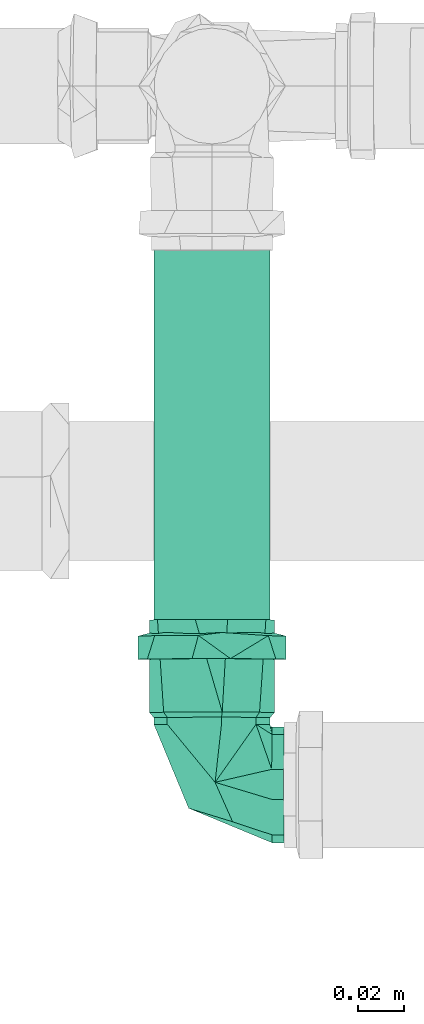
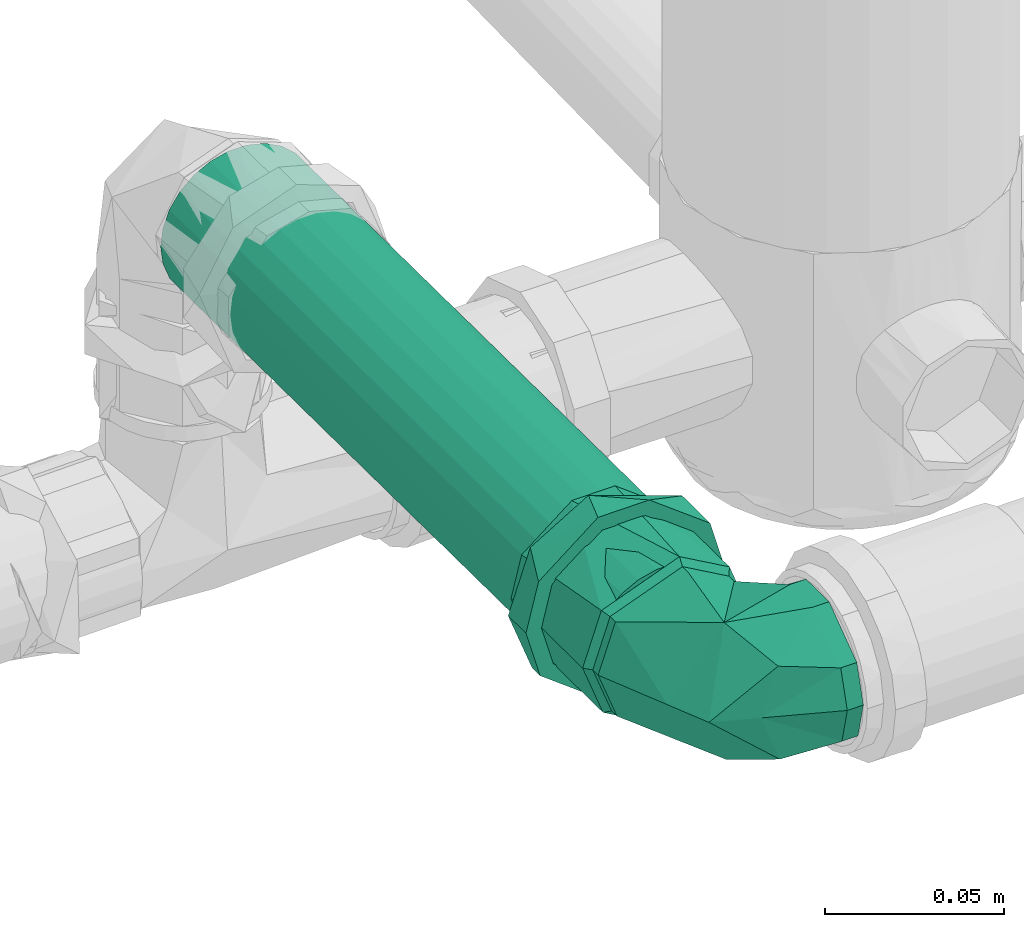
# One storey, part 96 of 589: 1 flow fitting, 1 flow segment.
"""IFC2X3 building model written with IfcOpenShell, lengths in millimetres."""

from ifc_helpers import new_model, entity, si_unit, converted_unit, derived_unit, direction, frame, frame_2d, origin, place, context, subcontext, project, spatial, circle, extrude, faceted_brep, source, transform, mapped, material, type_object, type_shapes, element, save


model = new_model("IFC2X3")

# Units and contexts
model_context = context("Model", 3, precision=0.01, world=origin(), true_north=direction((6.123031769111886e-17, 1.0)))
body_context = subcontext(model_context, "Body", "Model", "MODEL_VIEW")
ifc_project = project(units=[si_unit("LENGTHUNIT", "METRE", prefix="MILLI"), si_unit("AREAUNIT", "SQUARE_METRE"), si_unit("VOLUMEUNIT", "CUBIC_METRE"), converted_unit("PLANEANGLEUNIT", "DEGREE", entity("IfcRatioMeasure", 0.017453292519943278), si_unit("PLANEANGLEUNIT", "RADIAN"), dimensions=[0, 0, 0, 0, 0, 0, 0]), si_unit("MASSUNIT", "GRAM", prefix="KILO"), derived_unit("MASSDENSITYUNIT", [(si_unit("MASSUNIT", "GRAM", prefix="KILO"), 1), (si_unit("LENGTHUNIT", "METRE"), -3)]), derived_unit("IONCONCENTRATIONUNIT", [(si_unit("MASSUNIT", "GRAM", prefix="KILO"), 1), (si_unit("LENGTHUNIT", "METRE"), -3)]), derived_unit("MOMENTOFINERTIAUNIT", [(si_unit("LENGTHUNIT", "METRE"), 4)]), si_unit("TIMEUNIT", "SECOND"), si_unit("FREQUENCYUNIT", "HERTZ"), si_unit("THERMODYNAMICTEMPERATUREUNIT", "DEGREE_CELSIUS"), derived_unit("THERMALTRANSMITTANCEUNIT", [(si_unit("MASSUNIT", "GRAM", prefix="KILO"), 1), (si_unit("THERMODYNAMICTEMPERATUREUNIT", "KELVIN"), -1), (si_unit("TIMEUNIT", "SECOND"), -3)]), derived_unit("THERMALCONDUCTANCEUNIT", [(si_unit("MASSUNIT", "GRAM", prefix="KILO"), 1), (si_unit("THERMODYNAMICTEMPERATUREUNIT", "KELVIN"), -1), (si_unit("TIMEUNIT", "SECOND"), -3), (si_unit("LENGTHUNIT", "METRE"), 1)]), derived_unit("VOLUMETRICFLOWRATEUNIT", [(si_unit("LENGTHUNIT", "METRE"), 3), (si_unit("TIMEUNIT", "SECOND"), -1)]), derived_unit("MASSFLOWRATEUNIT", [(si_unit("MASSUNIT", "GRAM", prefix="KILO"), 1), (si_unit("TIMEUNIT", "SECOND"), -1)]), derived_unit("ROTATIONALFREQUENCYUNIT", [(si_unit("TIMEUNIT", "SECOND"), -1)]), si_unit("ELECTRICCURRENTUNIT", "AMPERE"), si_unit("ELECTRICVOLTAGEUNIT", "VOLT"), si_unit("POWERUNIT", "WATT"), si_unit("FORCEUNIT", "NEWTON", prefix="KILO"), si_unit("ILLUMINANCEUNIT", "LUX"), si_unit("LUMINOUSFLUXUNIT", "LUMEN"), si_unit("LUMINOUSINTENSITYUNIT", "CANDELA"), derived_unit("USERDEFINED", [(si_unit("MASSUNIT", "GRAM", prefix="KILO"), -1), (si_unit("LENGTHUNIT", "METRE"), -2), (si_unit("TIMEUNIT", "SECOND"), 3), (si_unit("LUMINOUSFLUXUNIT", "LUMEN"), 1)]), derived_unit("USERDEFINED", [(si_unit("MASSUNIT", "GRAM", prefix="KILO"), 1), (si_unit("TIMEUNIT", "SECOND"), -3), (si_unit("LENGTHUNIT", "METRE"), 3), (si_unit("ELECTRICCURRENTUNIT", "AMPERE"), -2)]), derived_unit("SOUNDPOWERUNIT", [(si_unit("MASSUNIT", "GRAM", prefix="KILO"), 1), (si_unit("TIMEUNIT", "SECOND"), -3), (si_unit("LENGTHUNIT", "METRE"), 2)]), derived_unit("SOUNDPRESSUREUNIT", [(si_unit("MASSUNIT", "GRAM", prefix="KILO"), 1), (si_unit("LENGTHUNIT", "METRE"), -1), (si_unit("TIMEUNIT", "SECOND"), -2)]), derived_unit("LINEARVELOCITYUNIT", [(si_unit("LENGTHUNIT", "METRE"), 1), (si_unit("TIMEUNIT", "SECOND"), -1)]), si_unit("PRESSUREUNIT", "PASCAL"), derived_unit("USERDEFINED", [(si_unit("MASSUNIT", "GRAM", prefix="KILO"), 1), (si_unit("LENGTHUNIT", "METRE"), -2), (si_unit("TIMEUNIT", "SECOND"), -2)]), derived_unit("LINEARFORCEUNIT", [(si_unit("MASSUNIT", "GRAM", prefix="KILO"), 1), (si_unit("TIMEUNIT", "SECOND"), -2)]), derived_unit("PLANARFORCEUNIT", [(si_unit("MASSUNIT", "GRAM", prefix="KILO"), 1), (si_unit("LENGTHUNIT", "METRE"), -1), (si_unit("TIMEUNIT", "SECOND"), -2)]), derived_unit("SPECIFICHEATCAPACITYUNIT", [(si_unit("THERMODYNAMICTEMPERATUREUNIT", "KELVIN"), -1), (si_unit("LENGTHUNIT", "METRE"), 2), (si_unit("TIMEUNIT", "SECOND"), -2)]), derived_unit("HEATINGVALUEUNIT", [(si_unit("LENGTHUNIT", "METRE"), 2), (si_unit("TIMEUNIT", "SECOND"), -2)]), derived_unit("VAPORPERMEABILITYUNIT", [(si_unit("LENGTHUNIT", "METRE"), -1), (si_unit("TIMEUNIT", "SECOND"), 1)]), derived_unit("DYNAMICVISCOSITYUNIT", [(si_unit("MASSUNIT", "GRAM", prefix="KILO"), 1), (si_unit("TIMEUNIT", "SECOND"), -1), (si_unit("LENGTHUNIT", "METRE"), -1)]), derived_unit("THERMALEXPANSIONCOEFFICIENTUNIT", [(si_unit("THERMODYNAMICTEMPERATUREUNIT", "KELVIN"), -1)]), derived_unit("MODULUSOFELASTICITYUNIT", [(si_unit("MASSUNIT", "GRAM", prefix="KILO"), 1), (si_unit("LENGTHUNIT", "METRE"), -1), (si_unit("TIMEUNIT", "SECOND"), -2)]), derived_unit("ISOTHERMALMOISTURECAPACITYUNIT", [(si_unit("LENGTHUNIT", "METRE"), 3), (si_unit("MASSUNIT", "GRAM", prefix="KILO"), -1)]), derived_unit("MOISTUREDIFFUSIVITYUNIT", [(si_unit("TIMEUNIT", "SECOND"), -1), (si_unit("LENGTHUNIT", "METRE"), 2)])], contexts=[model_context])

# Site, building, storey
site_placement = place(None, origin())
site = spatial("IfcSite", under=ifc_project, at=site_placement, Name="Default", CompositionType="ELEMENT")
building_placement = place(site_placement, origin())
building = spatial("IfcBuilding", under=site, at=building_placement, CompositionType="ELEMENT")
storey_placement = place(building_placement, frame((0.0, 0.0, 100.0)))
storey = spatial("IfcBuildingStorey", under=building, at=storey_placement, Name="TÉRREO", CompositionType="ELEMENT", Elevation=100.0)

# Flow segment
pipe_segment_type = type_object("IfcPipeSegmentType", Name="Tipos de tubos:PVC Esgoto Série Normal", PredefinedType="NOTDEFINED")
flow_segment_placement = place(storey_placement, origin())
element("IfcFlowSegment", 1, at=flow_segment_placement, inside=storey, type_object=pipe_segment_type, Name="Tipos de tubos:PVC Esgoto Série Normal", ObjectType="Tipos de tubos:PVC Esgoto Série Normal", context=body_context, shape_type="SweptSolid", body=[
    extrude(circle(Radius=25.0, at=frame_2d((0.0, -1.9795174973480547e-14), x_axis=(1.0, 0.0))), frame((-3099.894944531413, -624.5892313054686, -72.29645995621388), z_axis=(0.0, 0.9999500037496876, -0.00999950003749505), x_axis=(-1.0, 0.0, 0.0)), (0.0, 0.0, 1.0), 239.42622177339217),
])

# Flow fitting
ifc_material = material(Name="PVC Série Normal")
pipe_fitting_type = type_object("IfcPipeFittingType", Name="PVC Esgoto_Joelho 45_90_Rodrigo MEP:a. Série Normal", PredefinedType="NOTDEFINED", material=ifc_material)
shared_shape = source(origin(), body_context, "Body", "Brep", [
    faceted_brep([(-6.4678766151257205, 25.998047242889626, -24.1481456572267), (6.473075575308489, 25.99675327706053, -24.148145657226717), (21.653234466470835, 25.995235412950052, -12.500000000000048), (25.00259935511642, 25.99490050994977, 0.0), (21.65323446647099, 25.995235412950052, 12.499999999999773), (6.4730755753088, 25.99675327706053, 24.14814565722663), (-6.467876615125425, 25.998047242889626, 24.14814565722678), (-21.648035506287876, 25.999565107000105, 12.500000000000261), (-24.99740039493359, 25.99990001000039, 0.0), (-21.64803550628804, 25.999565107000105, -12.499999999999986), (21.65375441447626, 31.195235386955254, 12.499999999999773), (25.003119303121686, 31.19490048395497, 0.0), (21.6537544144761, 31.195235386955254, -12.500000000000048), (6.473595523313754, 31.196753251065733, -24.148145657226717), (-6.467356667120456, 31.198047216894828, -24.1481456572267), (-21.64751555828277, 31.199565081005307, -12.499999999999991), (-24.99688044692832, 31.19989998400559, 0.0), (-21.64751555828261, 31.199565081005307, 12.500000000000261), (-6.4673566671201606, 31.198047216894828, 24.14814565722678), (6.473595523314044, 31.196753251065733, 24.148145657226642)], [[[0, 1, 2, 3, 4, 5, 6, 7, 8, 9]], [[10, 11, 12, 13, 14, 15, 16, 17, 18, 19]], [[3, 11, 10, 4]], [[4, 10, 19, 5]], [[19, 18, 6, 5]], [[6, 18, 17, 7]], [[7, 17, 16, 8]], [[8, 16, 15, 9]], [[9, 15, 14, 0]], [[14, 13, 1, 0]], [[1, 13, 12, 2]], [[2, 12, 11, 3]]]),
    faceted_brep([(-71.19740038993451, -6.988114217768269, -26.07999730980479), (-71.19740038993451, -6.47047612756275, -24.14814565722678), (-71.19740038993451, 6.4704761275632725, -24.148145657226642), (-71.19740038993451, -23.382685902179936, -13.499999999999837), (-71.19740038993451, 6.988114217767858, -26.0799973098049), (-71.19740038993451, -21.650635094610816, -12.500000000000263), (-71.19740038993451, -25.0, 0.0), (-71.19740038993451, -27.0, 0.0), (-71.19740038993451, -21.650635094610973, 12.499999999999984), (-71.19740038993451, -23.382685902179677, 13.500000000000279), (-71.19740038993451, -6.470476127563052, 24.1481456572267), (-71.19740038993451, -6.98811421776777, 26.079997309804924), (-71.19740038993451, 6.470476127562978, 24.14814565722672), (-71.19740038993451, 6.988114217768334, 26.07999730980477), (-71.19740038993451, 21.650635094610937, 12.500000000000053), (-71.19740038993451, 23.38268590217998, 13.499999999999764), (-71.19740038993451, 27.0, 0.0), (-71.19740038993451, 25.0, 0.0), (-71.19740038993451, 23.382685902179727, -13.500000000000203), (-71.19740038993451, 21.6506350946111, -12.499999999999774), (-31.197400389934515, 21.650635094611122, -12.499999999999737), (-31.197400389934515, 25.0, 0.0), (-31.197400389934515, 6.4704761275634, -24.148145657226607), (-31.197400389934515, -6.470476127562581, -24.148145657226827), (-31.197400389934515, -21.650635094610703, -12.500000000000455), (-31.197400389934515, -25.0, 0.0), (-31.197400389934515, -21.65063509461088, 12.500000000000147), (-31.197400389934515, -6.470476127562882, 24.14814565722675), (-31.197400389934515, 6.470476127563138, 24.148145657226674), (-31.197400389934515, 21.650635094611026, 12.499999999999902), (-31.197400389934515, 27.0, 0.0), (-31.19740038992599, 20.682232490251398, 17.35641838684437), (-31.197400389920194, 4.685536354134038, 26.59033187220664), (-31.19740038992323, -20.686585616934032, 17.35122979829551), (-31.197400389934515, -27.0, 0.0), (-31.197400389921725, -8.000524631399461, 21.970780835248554), (-31.19740038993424, -20.686585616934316, -17.35122979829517), (-31.197400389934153, -4.6922062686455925, -26.589155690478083), (-31.197400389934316, 20.682232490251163, -17.356418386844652), (-31.197400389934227, 7.995013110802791, -21.97278703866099), (-28.997400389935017, -4.338459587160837, -24.62067765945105), (-28.9974003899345, 25.0, 0.0), (-28.99740038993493, 19.154245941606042, -16.065953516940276), (-28.997400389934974, 7.407893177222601, -20.34331558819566), (-28.997400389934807, -19.15021526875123, -16.070757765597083), (-28.9974003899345, -25.0, 0.0), (-28.997400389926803, -19.150215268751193, 16.07075776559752), (-28.997400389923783, -7.402789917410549, 20.34517318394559), (-28.9974003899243, 19.15424594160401, 16.065953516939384), (-28.997400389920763, 4.34463543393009, 24.619588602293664), (-25.997400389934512, 25.0, 0.0), (-25.997400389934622, 19.151286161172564, 16.069481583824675), (-25.997400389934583, 4.341396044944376, 24.62016003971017), (-25.997400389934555, -7.404832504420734, 20.344954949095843), (-25.997400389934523, -19.15106105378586, 16.069749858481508), (-25.997400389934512, -25.0, 0.0), (-25.997400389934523, -19.15106105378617, -16.069749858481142), (-25.99740038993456, -4.341051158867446, -24.62022085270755), (-25.997400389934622, 19.15128616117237, -16.069481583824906), (-25.99740038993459, 7.405117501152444, -20.344851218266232), (21.653234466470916, 25.995235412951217, 12.499999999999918), (25.002599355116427, 25.99490050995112, 0.0), (21.653234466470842, 25.995235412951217, -12.500000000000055), (6.473075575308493, 25.996753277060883, -24.14814565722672), (-6.467876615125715, 25.998047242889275, -24.1481456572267), (-21.64803550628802, 25.999565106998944, -12.499999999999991), (-24.997400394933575, 25.999900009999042, 0.0), (-21.64803550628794, 25.999565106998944, 12.500000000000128), (-6.467876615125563, 25.998047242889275, 24.14814565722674), (6.473075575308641, 25.996753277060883, 24.148145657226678), (-0.8941491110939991, 1.5691884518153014, 23.312558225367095), (-3.4891844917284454, -15.67745088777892, 0.0), (10.063242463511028, -10.064248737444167, 0.0), (16.06770268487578, 9.069040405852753, 15.83627166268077), (-25.290328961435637, 25.29285786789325, 0.0), (15.67779934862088, 3.4876160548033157, 0.0), (16.06770213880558, 9.06904053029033, -15.836272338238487), (-0.9328517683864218, 1.4778109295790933, -23.29853780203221)], [[[0, 1, 2]], [[1, 0, 3]], [[2, 4, 0]], [[3, 5, 1]], [[3, 6, 5]], [[6, 3, 7]], [[8, 6, 7]], [[8, 7, 9]], [[9, 10, 8]], [[9, 11, 10]], [[10, 11, 12]], [[13, 12, 11]], [[13, 14, 12]], [[14, 13, 15]], [[16, 14, 15]], [[17, 14, 16]], [[18, 17, 16]], [[18, 19, 17]], [[19, 18, 4]], [[4, 2, 19]], [[20, 21, 17, 19]], [[22, 20, 19, 2]], [[2, 1, 23, 22]], [[24, 23, 1, 5]], [[25, 24, 5, 6]], [[26, 25, 6, 8]], [[27, 26, 8, 10]], [[10, 12, 28, 27]], [[29, 28, 12, 14]], [[21, 29, 14, 17]], [[16, 15, 30]], [[15, 31, 30]], [[31, 15, 13]], [[31, 13, 32]], [[33, 11, 9]], [[34, 9, 7]], [[11, 33, 35, 32]], [[33, 9, 34]], [[11, 32, 13]], [[7, 3, 34]], [[3, 36, 34]], [[36, 3, 0]], [[36, 0, 37]], [[38, 4, 18]], [[30, 18, 16]], [[4, 38, 39, 37]], [[38, 18, 30]], [[4, 37, 0]], [[28, 29, 21, 20, 22, 23, 24, 25, 26, 27]], [[39, 40, 37]], [[41, 42, 30]], [[30, 42, 38]], [[38, 43, 39]], [[44, 45, 36]], [[38, 42, 43]], [[36, 37, 44]], [[34, 36, 45]], [[40, 39, 43]], [[44, 37, 40]], [[45, 46, 33]], [[33, 34, 45]], [[46, 35, 33]], [[46, 47, 35]], [[47, 32, 35]], [[48, 41, 30]], [[48, 31, 49]], [[31, 48, 30]], [[32, 47, 49]], [[49, 31, 32]], [[41, 48, 50]], [[48, 51, 50]], [[51, 48, 49]], [[51, 49, 52]], [[52, 47, 53]], [[46, 54, 53]], [[46, 45, 54]], [[49, 47, 52]], [[54, 45, 55]], [[47, 46, 53]], [[45, 44, 56]], [[45, 56, 55]], [[56, 44, 57]], [[58, 59, 43]], [[44, 40, 57]], [[40, 59, 57]], [[58, 43, 42]], [[42, 50, 58]], [[50, 42, 41]], [[59, 40, 43]], [[60, 61, 62, 63, 64, 65, 66, 67, 68, 69]], [[52, 70, 51]], [[54, 71, 70]], [[70, 52, 53, 54]], [[72, 73, 70]], [[50, 67, 74]], [[51, 67, 50]], [[54, 55, 71]], [[72, 70, 71]], [[75, 61, 60]], [[69, 70, 73]], [[73, 75, 60]], [[74, 67, 66]], [[73, 60, 69]], [[67, 51, 68]], [[70, 68, 51]], [[73, 72, 75]], [[69, 68, 70]], [[72, 76, 75]], [[71, 55, 56]], [[77, 58, 64]], [[77, 57, 59, 58]], [[77, 71, 56]], [[56, 57, 77]], [[77, 63, 76]], [[58, 50, 65]], [[74, 66, 65]], [[71, 77, 72]], [[65, 64, 58]], [[62, 75, 76]], [[62, 61, 75]], [[72, 77, 76]], [[76, 63, 62]], [[64, 63, 77]], [[65, 50, 74]]]),
    faceted_brep([(-54.19740038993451, 6.9881142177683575, -26.07999730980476), (-54.19740038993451, -6.988114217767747, -26.079997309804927), (-54.19740038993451, -8.282209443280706, -30.909626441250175), (-54.19740038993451, 8.28220944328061, -30.9096264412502), (-54.19740038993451, 23.38268590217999, -13.499999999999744), (-54.19740038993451, -27.712812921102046, -16.0), (-54.19740038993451, -23.38268590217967, -13.500000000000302), (-54.19740038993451, -27.0, 0.0), (-54.19740038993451, -32.0, 0.0), (-54.19740038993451, -23.382685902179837, 13.500000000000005), (-54.19740038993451, -27.712812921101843, 16.0), (-54.19740038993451, -6.988114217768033, 26.07999730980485), (-54.19740038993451, -8.28220944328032, 30.909626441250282), (-54.19740038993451, 6.988114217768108, 26.07999730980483), (-54.19740038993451, 8.282209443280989, 30.909626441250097), (-54.19740038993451, 23.382685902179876, 13.499999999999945), (-54.19740038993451, 27.712812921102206, 16.0), (-54.19740038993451, 32.0, 0.0), (-54.19740038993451, 27.0, 0.0), (-54.19740038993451, 27.712812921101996, -16.0), (-64.19740038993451, 27.0, 0.0), (-65.49740038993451, 27.0, 0.0), (-64.19740038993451, 25.191342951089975, -6.750000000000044), (-64.19740038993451, 23.38268590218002, -13.499999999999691), (-64.19740038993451, 19.284042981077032, -16.644999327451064), (-64.19740038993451, 15.185400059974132, -19.789998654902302), (-64.19740038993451, 11.086757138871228, -22.934997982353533), (-64.19740038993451, 6.988114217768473, -26.07999730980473), (-64.19740038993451, 0.0, -26.079997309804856), (-64.19740038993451, -6.988114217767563, -26.079997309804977), (-64.19740038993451, -11.086757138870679, -22.934997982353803), (-64.19740038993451, -15.185400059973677, -19.789998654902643), (-64.1974003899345, -19.284042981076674, -16.644999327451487), (-64.19740038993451, -23.382685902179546, -13.50000000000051), (-64.19740038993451, -25.191342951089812, -6.750000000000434), (-65.49740038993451, -27.0, 0.0), (-64.19740038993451, -27.0, 0.0), (-64.19740038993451, -25.19134295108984, 6.750000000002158), (-64.19740038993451, -23.382685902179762, 13.500000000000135), (-64.19740038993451, -19.284042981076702, 16.64499932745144), (-64.19740038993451, -15.185400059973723, 19.7899986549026), (-64.19740038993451, -11.086757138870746, 22.934997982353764), (-64.19740038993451, -6.988114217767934, 26.079997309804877), (-64.1974003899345, 0.0, 26.079997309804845), (-64.19740038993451, 6.988114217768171, 26.079997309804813), (-64.19740038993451, 11.086757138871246, 22.93499798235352), (-64.19740038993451, 15.185400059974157, 19.789998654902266), (-64.19740038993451, 19.284042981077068, 16.644999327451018), (-64.19740038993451, 23.382685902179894, 13.499999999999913), (-64.19740038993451, 25.19134295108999, 6.74999999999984), (-64.19740038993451, 32.0, 0.0), (-64.1974003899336, 24.512275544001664, 20.570569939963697), (-64.1974003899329, -5.561133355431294, 31.51307341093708), (-64.1974003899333, -24.51743480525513, 20.56442050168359), (-64.19740038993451, -32.0, 0.0), (-64.19740038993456, -24.51743480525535, -20.564420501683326), (-64.19740038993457, 5.553228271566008, -31.514467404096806), (-64.19740038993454, 24.512275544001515, -20.570569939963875), (-65.49740038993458, -23.84329280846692, -8.675614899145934), (-65.49740038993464, -20.686585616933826, -17.351229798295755), (-65.49740038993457, 23.841116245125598, -8.678209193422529), (-65.49740038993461, 20.6822324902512, -17.356418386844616), (-65.49740038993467, -12.689395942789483, -21.970192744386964), (-65.49740038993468, -4.692206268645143, -26.589155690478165), (-65.49740038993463, 14.338622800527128, -19.664602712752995), (-65.49740038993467, 1.6514034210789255, -24.280971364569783), (-65.49740038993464, 7.995013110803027, -21.97278703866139), (-65.49740038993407, 23.84111624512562, 8.678209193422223), (-65.49740038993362, 20.68223249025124, 17.35641838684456), (-65.49740038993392, -23.843292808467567, 8.675614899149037), (-65.49740038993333, -20.68658561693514, 17.351229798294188), (-65.49740038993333, 12.683884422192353, 21.973375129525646), (-65.49740038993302, 4.685536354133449, 26.590331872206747), (-65.49740038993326, -14.343555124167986, 19.66100531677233), (-65.4974003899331, -1.6574941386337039, 24.280556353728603), (-65.49740038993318, -8.000524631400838, 21.97078083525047)], [[[0, 1, 2]], [[2, 3, 0]], [[4, 0, 3]], [[5, 2, 1]], [[1, 6, 5]], [[6, 7, 5]], [[8, 5, 7]], [[8, 7, 9]], [[10, 8, 9]], [[9, 11, 10]], [[11, 12, 10]], [[13, 12, 11]], [[12, 13, 14]], [[13, 15, 14]], [[16, 14, 15]], [[16, 15, 17]], [[17, 15, 18]], [[18, 4, 19]], [[17, 18, 19]], [[3, 19, 4]], [[4, 18, 20, 21, 22, 23]], [[0, 4, 23, 24, 25, 26, 27]], [[0, 27, 28, 29, 1]], [[6, 1, 29, 30, 31, 32, 33]], [[7, 6, 33, 34, 35, 36]], [[9, 7, 36, 35, 37, 38]], [[11, 9, 38, 39, 40, 41, 42]], [[11, 42, 43, 44, 13]], [[15, 13, 44, 45, 46, 47, 48]], [[18, 15, 48, 49, 21, 20]], [[50, 51, 16]], [[50, 16, 17]], [[16, 51, 14]], [[51, 52, 14]], [[12, 52, 53]], [[10, 53, 54]], [[53, 10, 12]], [[10, 54, 8]], [[52, 12, 14]], [[54, 55, 5]], [[54, 5, 8]], [[5, 55, 2]], [[55, 56, 2]], [[3, 56, 57]], [[19, 57, 50]], [[57, 19, 3]], [[19, 50, 17]], [[56, 3, 2]], [[58, 33, 59]], [[23, 60, 61]], [[32, 31, 59, 33]], [[30, 29, 62, 31]], [[24, 23, 61, 25]], [[29, 28, 63]], [[26, 25, 64]], [[65, 63, 28]], [[31, 62, 59]], [[63, 62, 29]], [[60, 22, 21]], [[34, 58, 35]], [[66, 26, 64]], [[28, 27, 65]], [[27, 66, 65]], [[27, 26, 66]], [[64, 25, 61]], [[34, 33, 58]], [[60, 23, 22]], [[67, 48, 68]], [[38, 69, 70]], [[47, 46, 68, 48]], [[45, 44, 71, 46]], [[39, 38, 70, 40]], [[44, 43, 72]], [[41, 40, 73]], [[74, 72, 43]], [[46, 71, 68]], [[72, 71, 44]], [[69, 37, 35]], [[49, 67, 21]], [[75, 41, 73]], [[43, 42, 74]], [[42, 75, 74]], [[42, 41, 75]], [[73, 40, 70]], [[49, 48, 67]], [[69, 38, 37]], [[54, 35, 58, 59, 55]], [[55, 59, 62, 63]], [[55, 63, 56]], [[57, 61, 60, 21, 50]], [[57, 56, 61]], [[56, 63, 65, 66, 64, 61]], [[50, 21, 67, 68, 51]], [[51, 68, 71, 72]], [[51, 72, 52]], [[53, 70, 69, 35, 54]], [[53, 52, 70]], [[52, 72, 74, 75, 73, 70]]]),
])
type_shapes(pipe_fitting_type, [shared_shape])
flow_fitting_placement = place(storey_placement, frame((-3099.894944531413, -655.7850719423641, -71.98450154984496), z_axis=(-0.009999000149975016, 0.009999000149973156, 0.9999000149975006), x_axis=(0.0, -0.9999500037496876, 0.009999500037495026)))
element("IfcFlowFitting", 2, at=flow_fitting_placement, inside=storey, type_object=pipe_fitting_type, material=ifc_material, Name="PVC Esgoto_Joelho 45_90_Rodrigo MEP:a. Série Normal", ObjectType="PVC Esgoto_Joelho 45_90_Rodrigo MEP:a. Série Normal", context=body_context, shape_type="MappedRepresentation", body=[
    mapped(shared_shape, transform((0.0, 0.0, 0.0), scale=1.0)),
])

save(model, "model.ifc")
